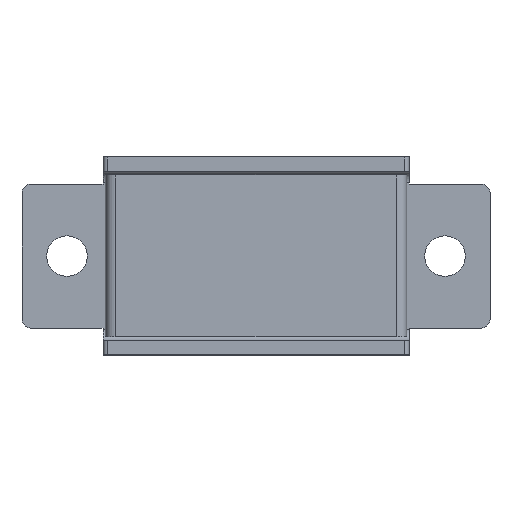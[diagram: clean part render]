
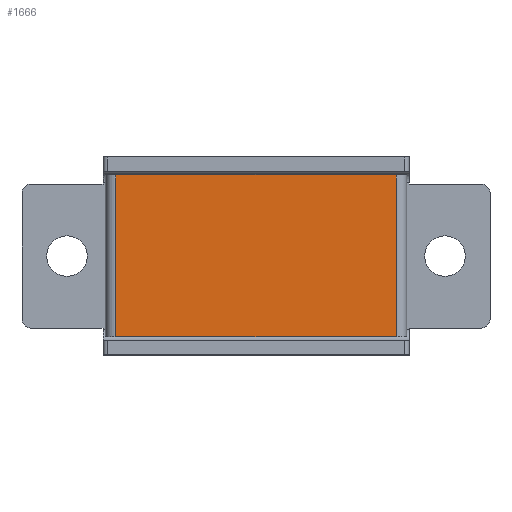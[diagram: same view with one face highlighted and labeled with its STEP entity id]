
A CAD part, top view. The second image highlights one B-rep face of the part: STEP entity #1666.
In plain terms, the highlighted planar face has unit normal (0, 0, 1).
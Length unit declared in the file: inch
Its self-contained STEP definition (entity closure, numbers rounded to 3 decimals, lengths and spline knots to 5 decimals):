
#66 = LINE ( 'NONE', #916, #743 ) ;
#183 = DIRECTION ( 'NONE',  ( 1., 0., 0. ) ) ;
#208 = EDGE_CURVE ( 'NONE', #1211, #439, #884, .T. ) ;
#220 = DIRECTION ( 'NONE',  ( 0., 1., 0. ) ) ;
#364 = CARTESIAN_POINT ( 'NONE',  ( 1.01563, -0.5625, 0.28 ) ) ;
#389 = VERTEX_POINT ( 'NONE', #703 ) ;
#439 = VERTEX_POINT ( 'NONE', #1003 ) ;
#454 = DIRECTION ( 'NONE',  ( 0., 0., 1. ) ) ;
#468 = LINE ( 'NONE', #779, #1507 ) ;
#509 = CARTESIAN_POINT ( 'NONE',  ( 1.01563, 0.5625, 0.28 ) ) ;
#561 = CARTESIAN_POINT ( 'NONE',  ( -0.97563, -0.5625, 0.28 ) ) ;
#579 = ORIENTED_EDGE ( 'NONE', *, *, #763, .T. ) ;
#660 = DIRECTION ( 'NONE',  ( -1., 0., 0. ) ) ;
#703 = CARTESIAN_POINT ( 'NONE',  ( 0.97563, -0.5625, 0.28 ) ) ;
#743 = VECTOR ( 'NONE', #220, 39.37008 ) ;
#763 = EDGE_CURVE ( 'NONE', #389, #439, #66, .T. ) ;
#779 = CARTESIAN_POINT ( 'NONE',  ( -0.97563, 0.5625, 0.28 ) ) ;
#791 = CARTESIAN_POINT ( 'NONE',  ( -0.97563, 0.5625, 0.28 ) ) ;
#849 = ORIENTED_EDGE ( 'NONE', *, *, #208, .F. ) ;
#884 = LINE ( 'NONE', #509, #991 ) ;
#898 = VECTOR ( 'NONE', #660, 39.37008 ) ;
#916 = CARTESIAN_POINT ( 'NONE',  ( 0.97563, -0.5625, 0.28 ) ) ;
#954 = VERTEX_POINT ( 'NONE', #561 ) ;
#988 = FACE_OUTER_BOUND ( 'NONE', #1414, .T. ) ;
#991 = VECTOR ( 'NONE', #183, 39.37008 ) ;
#1003 = CARTESIAN_POINT ( 'NONE',  ( 0.97563, 0.5625, 0.28 ) ) ;
#1028 = CARTESIAN_POINT ( 'NONE',  ( -1.01563, 0.5625, 0.28 ) ) ;
#1077 = EDGE_CURVE ( 'NONE', #1211, #954, #468, .T. ) ;
#1141 = EDGE_CURVE ( 'NONE', #389, #954, #1403, .T. ) ;
#1211 = VERTEX_POINT ( 'NONE', #791 ) ;
#1403 = LINE ( 'NONE', #364, #898 ) ;
#1414 = EDGE_LOOP ( 'NONE', ( #849, #1853, #1851, #579 ) ) ;
#1449 = PLANE ( 'NONE',  #1685 ) ;
#1507 = VECTOR ( 'NONE', #1813, 39.37008 ) ;
#1666 = ADVANCED_FACE ( 'NONE', ( #988 ), #1449, .T. ) ;
#1685 = AXIS2_PLACEMENT_3D ( 'NONE', #1028, #454, #1742 ) ;
#1742 = DIRECTION ( 'NONE',  ( 1., 0., 0. ) ) ;
#1813 = DIRECTION ( 'NONE',  ( 0., -1., 0. ) ) ;
#1851 = ORIENTED_EDGE ( 'NONE', *, *, #1141, .F. ) ;
#1853 = ORIENTED_EDGE ( 'NONE', *, *, #1077, .T. ) ;
